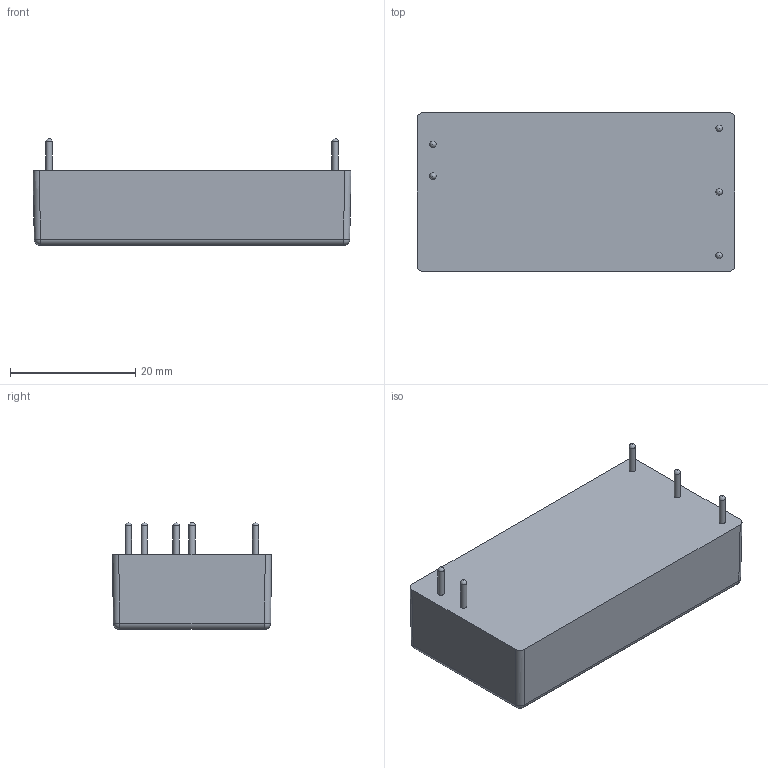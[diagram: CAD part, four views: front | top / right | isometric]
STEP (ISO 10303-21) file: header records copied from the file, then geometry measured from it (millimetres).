
FILE_DESCRIPTION(/* description */ (''),/* implementation_level */ '2;1');
FILE_NAME(/* name */ 'C:\Users\QIU\Desktop\MKE10-HI+MKE15-HI+MKE20-HI+MKW10M+MKW15M+MKW20M.stp',/* time_stamp */ '2016-09-27T08:48:54+08:00',/* author */ ('QIU'),/* organization */ (''),/* preprocessor_version */ 'ST-DEVELOPER v15.2',/* originating_system */ 'Autodesk Inventor 2014',/* authorisation */ '');
FILE_SCHEMA (('AUTOMOTIVE_DESIGN { 1 0 10303 214 3 1 1 }'));
Length unit declared in the file: millimetre
Products named in the file (1): MKW10M+MKW15M+MKW20M+MKE10-HI+MKE15-HI+MKE20-HI
Bounding box: 50.8 x 25.4 x 17.08 mm (x, y, z)
Volume: 15315.5 mm3; surface area: 4368.5 mm2
Topology: 1 solids, 1 shells, 30 faces, 68 edges, 37 vertices
Faces by surface type: cylinder 14, sphere 9, plane 7
Full cylindrical faces by diameter (mm): 1 x5, 1.5 x1
Entity records: 728 total; most frequent: DIRECTION 138, CARTESIAN_POINT 111, ORIENTED_EDGE 96, AXIS2_PLACEMENT_3D 59, EDGE_CURVE 48, EDGE_LOOP 42, VERTEX_POINT 32, FACE_OUTER_BOUND 30
